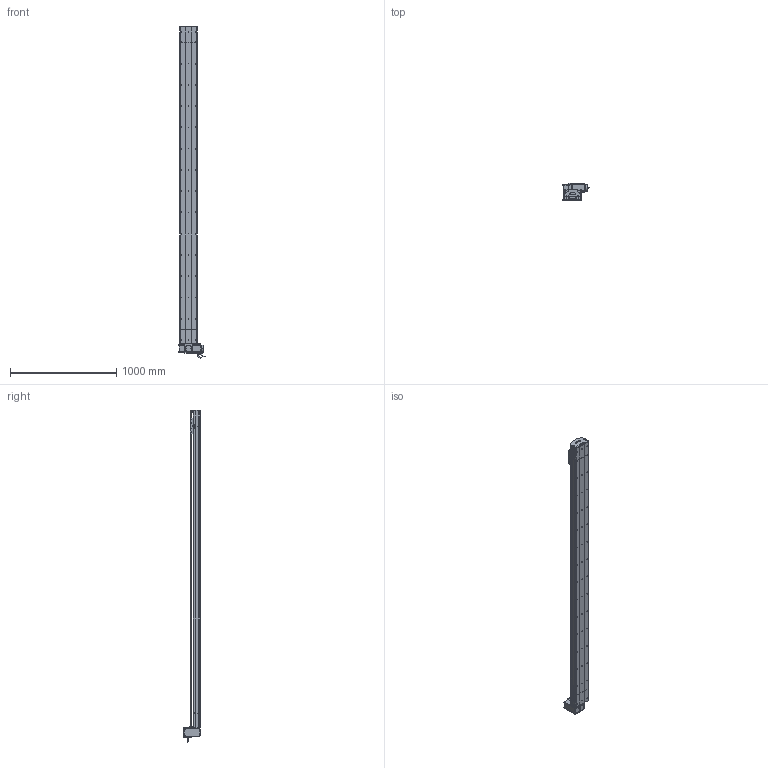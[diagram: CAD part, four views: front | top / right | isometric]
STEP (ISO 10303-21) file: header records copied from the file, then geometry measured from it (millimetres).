
FILE_DESCRIPTION (( 'STEP AP214' ), '1' );
FILE_NAME ('D17 TBH RT S2700.STEP', '2010-06-30T08:52:18', ( 'Christophe Gaillard' ), ( 'SGA' ), 'SwSTEP 2.0', 'SolidWorks 2010', '' );
FILE_SCHEMA (( 'AUTOMOTIVE_DESIGN' ));
Length unit declared in the file: millimetre
Products named in the file (40): couroie head D17_Default; Conecteur2_Default; corp tail D17B+100_Default; Tail D17B+100_Default; Renvoi RT_Default; cache arbre D17_Default; Rail D17B; tete d''axe poulie D17B; couvercle D17B_Default; Couroie tail D17B_Default; poulie tail_Default; plaque de  bout tail D17B_Default; chariot D17S_Default; vis M5 L25_Default; vis M5 L8 90°_Default; vis M5 L12_Default; guide D17; Chariot D17; Conecteur_Default; Head RT D17B_Default; D17 TBH RT S2700; course 2700 D17B_Default; Couroie+ rail D17 Course 2700 ; corps 90BLDC125A-640; Arbre+rail head D17B; cache D17_Default; plaque de  bout head D17B RT_Default; couvercle D17B course L2700_Default; Moteur motionking 90BLDC125A-640; codeur 90BLDC125-640; poulie head_Default; vis M5 L70_Default; Plaque racord D17_Default; Vis M5 L16-2_Default; avant 90BLDC125A-640; vis M5 L5_Default; couvercle D17B head_Default; corpl head D17 _Default; vis M5 L16_Default; corp D17B 2700_Default
Assembly tree (70 placements, depth 4):
  D17 TBH RT S2700
    chariot D17S_Default
      guide D17  x2
      vis M5 L12_Default  x4
      Chariot D17
    Tail D17B+100_Default
      vis M5 L12_Default  x4
      couvercle D17B_Default
      poulie tail_Default
      corp tail D17B+100_Default
      vis M5 L25_Default  x2
      vis M5 L8 90°_Default  x2
      Couroie tail D17B_Default
      plaque de  bout tail D17B_Default
      tete d''axe poulie D17B
      Rail D17B
    course 2700 D17B_Default
      Couroie+ rail D17 Course 2700 
      couvercle D17B course L2700_Default
      corp D17B 2700_Default
    Head RT D17B_Default
      vis M5 L12_Default  x8
      vis M5 L16_Default  x2
      poulie head_Default
      vis M5 L70_Default  x4
      Vis M5 L16-2_Default  x4
      Plaque racord D17_Default
      vis M5 L25_Default  x2
      vis M5 L5_Default  x4
      Moteur motionking 90BLDC125A-640
        avant 90BLDC125A-640
        Conecteur_Default
        corps 90BLDC125A-640
        codeur 90BLDC125-640
        Conecteur2_Default
      plaque de  bout head D17B RT_Default
      Arbre+rail head D17B
      Renvoi RT_Default
      couvercle D17B head_Default
      corpl head D17 _Default
      cache arbre D17_Default
      cache D17_Default  x2
      couroie head D17_Default
Bounding box: 245.2 x 166.15 x 3123.95 mm (x, y, z)
Volume: 17941127.8 mm3; surface area: 5210934.6 mm2
Topology: 94 solids, 94 shells, 2765 faces, 7059 edges, 4542 vertices
Faces by surface type: plane 1611, cylinder 841, bspline 136, cone 88, torus 85, sphere 4
Entity records: 87490 total; most frequent: CARTESIAN_POINT 25647, ORIENTED_EDGE 10890, DIRECTION 10310, EDGE_CURVE 5445, VERTEX_POINT 3566, LINE 3552, VECTOR 3552, AXIS2_PLACEMENT_3D 3379
